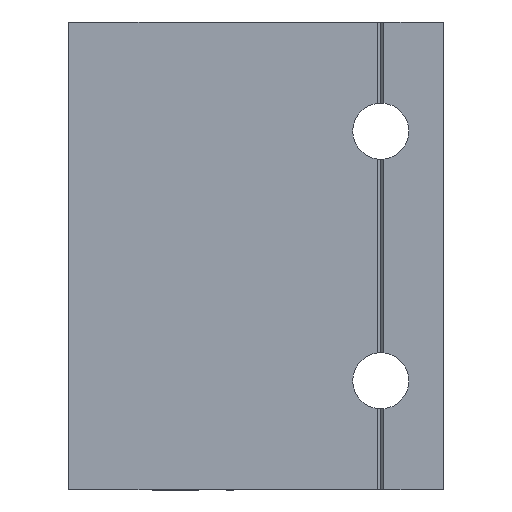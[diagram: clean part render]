
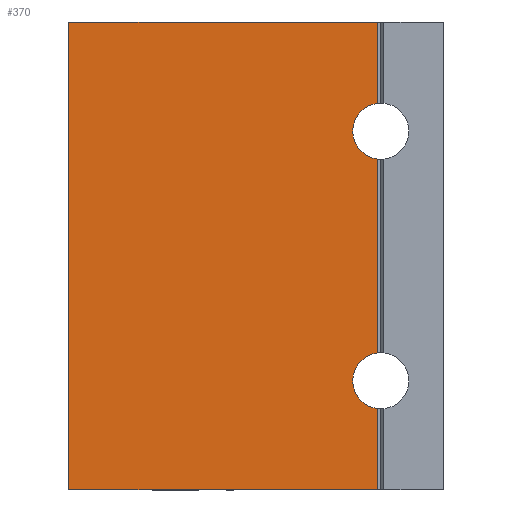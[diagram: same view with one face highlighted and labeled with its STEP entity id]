
A CAD part, front view. The second image highlights one B-rep face of the part: STEP entity #370.
In plain terms, the highlighted planar face has unit normal (0, -1, 0).
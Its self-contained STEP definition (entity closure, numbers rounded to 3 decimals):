
#18 = LINE ( 'NONE', #174, #1090 ) ;
#62 = CARTESIAN_POINT ( 'NONE',  ( 50., 0., 17.5 ) ) ;
#80 = CARTESIAN_POINT ( 'NONE',  ( 49.5, 0., 0. ) ) ;
#97 = CARTESIAN_POINT ( 'NONE',  ( 49.5, 0., 75. ) ) ;
#133 = VERTEX_POINT ( 'NONE', #986 ) ;
#148 = VECTOR ( 'NONE', #219, 1000. ) ;
#166 = DIRECTION ( 'NONE',  ( 0., 0., 1. ) ) ;
#171 = CARTESIAN_POINT ( 'NONE',  ( 49.5, 0., 0. ) ) ;
#174 = CARTESIAN_POINT ( 'NONE',  ( 49.5, 0., 0. ) ) ;
#197 = CARTESIAN_POINT ( 'NONE',  ( 49.5, 0., 0. ) ) ;
#219 = DIRECTION ( 'NONE',  ( 0., 0., 1. ) ) ;
#224 = EDGE_LOOP ( 'NONE', ( #843, #1660, #333, #1080, #285, #1646, #470, #630 ) ) ;
#236 = DIRECTION ( 'NONE',  ( 0., 0., -1. ) ) ;
#244 = LINE ( 'NONE', #80, #148 ) ;
#285 = ORIENTED_EDGE ( 'NONE', *, *, #568, .T. ) ;
#313 = EDGE_CURVE ( 'NONE', #608, #133, #244, .T. ) ;
#333 = ORIENTED_EDGE ( 'NONE', *, *, #765, .T. ) ;
#341 = LINE ( 'NONE', #589, #1560 ) ;
#343 = CARTESIAN_POINT ( 'NONE',  ( 50., 0., 57.5 ) ) ;
#354 = CIRCLE ( 'NONE', #1395, 4.5 ) ;
#370 = ADVANCED_FACE ( 'NONE', ( #1525 ), #638, .T. ) ;
#470 = ORIENTED_EDGE ( 'NONE', *, *, #1461, .F. ) ;
#477 = DIRECTION ( 'NONE',  ( 0., 1., 0. ) ) ;
#568 = EDGE_CURVE ( 'NONE', #620, #1015, #1781, .T. ) ;
#589 = CARTESIAN_POINT ( 'NONE',  ( 0., 0., 0. ) ) ;
#608 = VERTEX_POINT ( 'NONE', #197 ) ;
#613 = CARTESIAN_POINT ( 'NONE',  ( 60., 0., 0. ) ) ;
#620 = VERTEX_POINT ( 'NONE', #723 ) ;
#630 = ORIENTED_EDGE ( 'NONE', *, *, #1588, .F. ) ;
#638 = PLANE ( 'NONE',  #886 ) ;
#693 = DIRECTION ( 'NONE',  ( 1., 0., 0. ) ) ;
#704 = VECTOR ( 'NONE', #1466, 1000. ) ;
#723 = CARTESIAN_POINT ( 'NONE',  ( 49.5, 0., 53.028 ) ) ;
#765 = EDGE_CURVE ( 'NONE', #133, #1299, #354, .T. ) ;
#829 = VECTOR ( 'NONE', #693, 1000. ) ;
#843 = ORIENTED_EDGE ( 'NONE', *, *, #1196, .T. ) ;
#869 = LINE ( 'NONE', #613, #704 ) ;
#886 = AXIS2_PLACEMENT_3D ( 'NONE', #1353, #938, #236 ) ;
#938 = DIRECTION ( 'NONE',  ( 0., -1., 0. ) ) ;
#954 = CARTESIAN_POINT ( 'NONE',  ( 49.5, 0., 21.972 ) ) ;
#977 = AXIS2_PLACEMENT_3D ( 'NONE', #343, #477, #166 ) ;
#986 = CARTESIAN_POINT ( 'NONE',  ( 49.5, 0., 13.028 ) ) ;
#1015 = VERTEX_POINT ( 'NONE', #1492 ) ;
#1035 = LINE ( 'NONE', #171, #1211 ) ;
#1058 = DIRECTION ( 'NONE',  ( 0., 1., 0. ) ) ;
#1059 = VERTEX_POINT ( 'NONE', #97 ) ;
#1080 = ORIENTED_EDGE ( 'NONE', *, *, #1606, .T. ) ;
#1090 = VECTOR ( 'NONE', #1298, 1000. ) ;
#1127 = LINE ( 'NONE', #1390, #829 ) ;
#1169 = DIRECTION ( 'NONE',  ( 0., 0., 1. ) ) ;
#1196 = EDGE_CURVE ( 'NONE', #1828, #608, #869, .T. ) ;
#1207 = EDGE_CURVE ( 'NONE', #1015, #1059, #18, .T. ) ;
#1211 = VECTOR ( 'NONE', #1169, 1000. ) ;
#1277 = CARTESIAN_POINT ( 'NONE',  ( 0., 0., 0. ) ) ;
#1298 = DIRECTION ( 'NONE',  ( 0., 0., 1. ) ) ;
#1299 = VERTEX_POINT ( 'NONE', #954 ) ;
#1330 = DIRECTION ( 'NONE',  ( 0., 0., 1. ) ) ;
#1350 = DIRECTION ( 'NONE',  ( 0., 0., 1. ) ) ;
#1353 = CARTESIAN_POINT ( 'NONE',  ( 60., 0., 0. ) ) ;
#1390 = CARTESIAN_POINT ( 'NONE',  ( 25.902, 0., 75. ) ) ;
#1395 = AXIS2_PLACEMENT_3D ( 'NONE', #62, #1058, #1350 ) ;
#1461 = EDGE_CURVE ( 'NONE', #1514, #1059, #1127, .T. ) ;
#1466 = DIRECTION ( 'NONE',  ( 1., 0., 0. ) ) ;
#1492 = CARTESIAN_POINT ( 'NONE',  ( 49.5, 0., 61.972 ) ) ;
#1514 = VERTEX_POINT ( 'NONE', #1823 ) ;
#1525 = FACE_OUTER_BOUND ( 'NONE', #224, .T. ) ;
#1560 = VECTOR ( 'NONE', #1330, 1000. ) ;
#1588 = EDGE_CURVE ( 'NONE', #1828, #1514, #341, .T. ) ;
#1606 = EDGE_CURVE ( 'NONE', #1299, #620, #1035, .T. ) ;
#1646 = ORIENTED_EDGE ( 'NONE', *, *, #1207, .T. ) ;
#1660 = ORIENTED_EDGE ( 'NONE', *, *, #313, .T. ) ;
#1781 = CIRCLE ( 'NONE', #977, 4.5 ) ;
#1823 = CARTESIAN_POINT ( 'NONE',  ( 0., 0., 75. ) ) ;
#1828 = VERTEX_POINT ( 'NONE', #1277 ) ;
